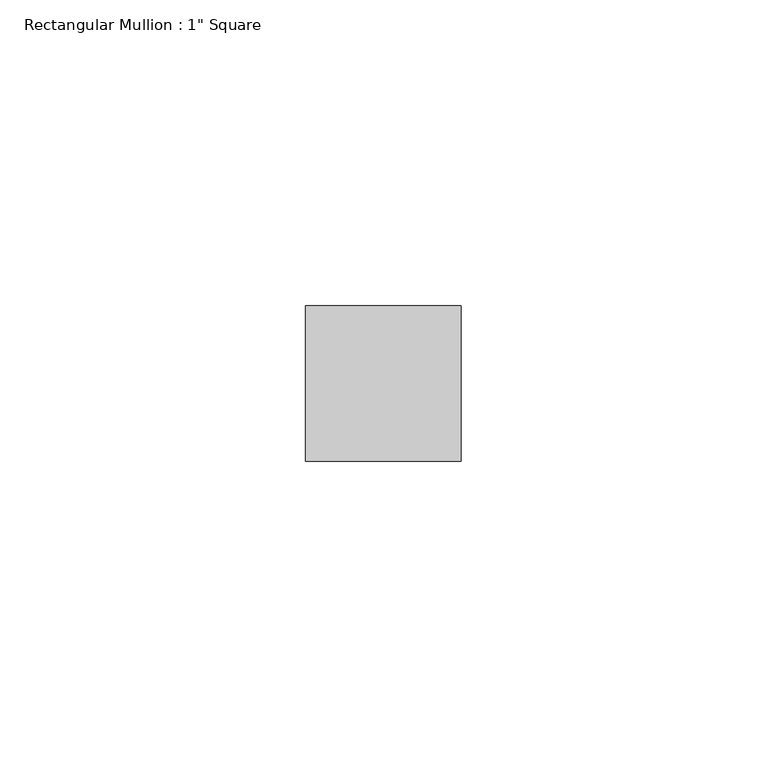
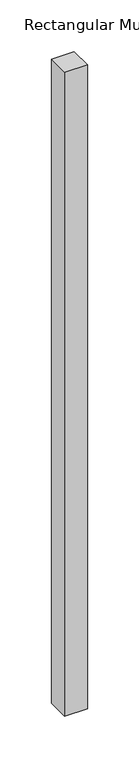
"""IFC4 building model written with IfcOpenShell, lengths in millimetres: member geometry."""

from ifc_helpers import new_model, si_unit, frame, origin, place, context, project, spatial, polyline, outline, extrude, source, transform, mapped, element, save


def member_724b312c(model_context):
    return source(origin(), model_context, "Body", "SweptSolid", [
        extrude(outline(polyline([(12.7, 12.7), (12.7, -12.7), (-12.7, -12.7), (-12.7, 12.7), (12.7, 12.7)])), frame((0.0, 0.0, -760.3183959), z_axis=(0.0, 0.0, 1.0), x_axis=(1.0, 0.0, 0.0)), (0.0, 0.0, 1.0), 760.3183959),
    ])


if __name__ == "__main__":
    model = new_model("IFC4")
    model_context = context("Model", 3, world=origin())
    ifc_project = project(units=[si_unit("LENGTHUNIT", "METRE", prefix="MILLI")], contexts=[model_context])
    site = spatial("IfcSite", under=ifc_project)
    building = spatial("IfcBuilding", under=site)
    placement = place(None, origin())
    member_shape = member_724b312c(model_context)
    element("IfcMember", 1, ObjectType="Rectangular Mullion : 1\" Square", at=placement, inside=building, context=model_context, shape_type="MappedRepresentation", body=[
        mapped(member_shape, transform((0.0, 0.0, 0.0), x_axis=(1.0, 0.0, 0.0), y_axis=(0.0, 1.0, 0.0), z_axis=(0.0, 0.0, 1.0))),
    ])
    save(model, "model.ifc")
